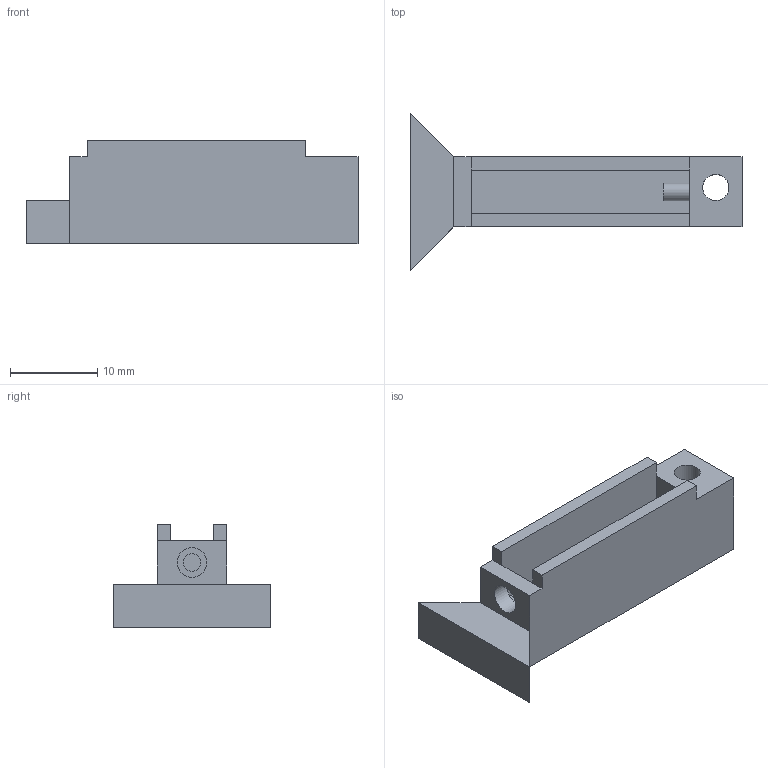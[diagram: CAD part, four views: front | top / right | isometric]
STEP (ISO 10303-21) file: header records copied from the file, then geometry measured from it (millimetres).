
FILE_DESCRIPTION(/* description */ ('STEP AP242 Edition 2','CAx-IF Rec.Pracs.---Representation and Presentation of Product Manufacturing Information (PMI)---4.0---2014-10-13','CAx-IF Rec.Pracs.---3D Tessellated Geometry---0.4---2014-09-14','2;1','CAx-IF Rec.Pracs.---User Defined Attributes---1.5---2016-08-15'),/* implementation_level */ '2;1');
FILE_NAME(/* name */ 'Part Studio 1 - spring_arm_r',/* time_stamp */ '2026-04-19T16:25:01Z',/* author */ (''),/* organization */ (''),/* preprocessor_version */ 'ST-DEVELOPER v20',/* originating_system */ 'ONSHAPE BY PTC INC, 1.213',/* authorisation */ ' ');
FILE_SCHEMA (('AP242_MANAGED_MODEL_BASED_3D_ENGINEERING_MIM_LF { 1 0 10303 442 3 1 4 }'));
Length unit declared in the file: metre
Products named in the file (1): spring_arm_r
Bounding box: 38 x 18 x 11.9 mm (x, y, z)
Volume: 2403.1 mm3; surface area: 2202.3 mm2
Topology: 1 solids, 1 shells, 26 faces, 63 edges, 40 vertices
Faces by surface type: plane 23, cylinder 3
Full cylindrical faces by diameter (mm): 2 x1, 3 x1, 3.4 x1
Entity records: 760 total; most frequent: CARTESIAN_POINT 127, ORIENTED_EDGE 120, DIRECTION 120, EDGE_CURVE 60, LINE 54, VECTOR 54, VERTEX_POINT 40, EDGE_LOOP 34
